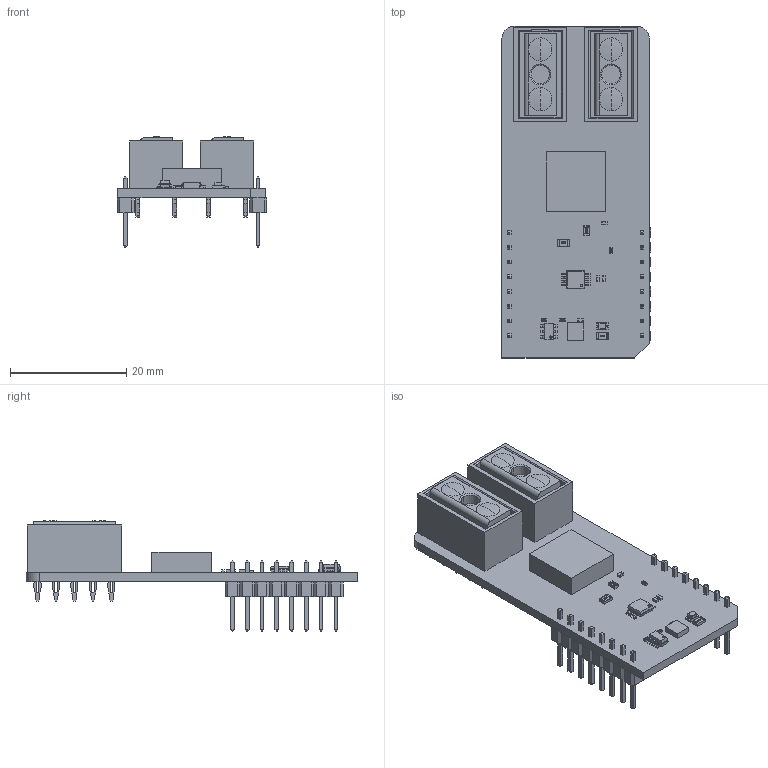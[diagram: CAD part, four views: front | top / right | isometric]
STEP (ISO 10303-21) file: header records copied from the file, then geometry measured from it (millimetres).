
FILE_DESCRIPTION(('Open CASCADE Model'),'2;1');
FILE_NAME('Open CASCADE Shape Model','2026-01-22T15:30:28',('Author'),( 'Open CASCADE'),'Open CASCADE STEP processor 6.8','Open CASCADE 6.8' ,'Unknown');
FILE_SCHEMA(('AUTOMOTIVE_DESIGN { 1 0 10303 214 1 1 1 1 }'));
Length unit declared in the file: millimetre
Products named in the file (42): PCB; Board; C4; User_Library-SMD_CAPACITOR0402; C3; C2; U4; User_Library-TSSOP-8_3_1x3_1; User_Library-TSSOP-8_3.1x3.1_pin_TSSOP_tssop_1; User_Library-TSSOP-8_3.1x3.1_body_TSSOP_TSSOP_3.1x3.1_1; U3; 1769864192; Extruded; R5; User_Library-R_0603; R2; User_Library-R_0402; CN2; Zpower_molex_50A; Open CASCADE STEP translator 6.8 1.9.1.1; Open CASCADE STEP translator 6.8 1.9.1.2; CN1; JP1; User_Library-R_0805; MBD1; Header_1x8; Free-Models; 1240637040; User_Library-PinHeaderX5-1_PinHeaderX5_Body_1; User_Library-PinHeaderX5-1_PinHeaderX5_Pins_1; R3; R1; LD1; led_0805_green; C1; R4; U1; 803555992; U2; User_Library-SOT23-6-2
Assembly tree (57 placements, depth 7):
  PCB
    Board
    C4
      User_Library-SMD_CAPACITOR0402
    C3
      User_Library-SMD_CAPACITOR0402
    C2
      User_Library-SMD_CAPACITOR0402
    U4
      User_Library-TSSOP-8_3_1x3_1
        User_Library-TSSOP-8_3.1x3.1_pin_TSSOP_tssop_1  x8
        User_Library-TSSOP-8_3.1x3.1_body_TSSOP_TSSOP_3.1x3.1_1
    U3
      1769864192
        Extruded
    R5
      User_Library-R_0603
    R2
      User_Library-R_0402
    CN2
      Zpower_molex_50A
        Open CASCADE STEP translator 6.8 1.9.1.1
        Open CASCADE STEP translator 6.8 1.9.1.2
    CN1
      Zpower_molex_50A
        Open CASCADE STEP translator 6.8 1.9.1.1
        Open CASCADE STEP translator 6.8 1.9.1.2
    JP1
      User_Library-R_0805
    MBD1
      Header_1x8  x2
        PCB
          Free-Models
            1240637040  x2
              User_Library-PinHeaderX5-1_PinHeaderX5_Body_1
              User_Library-PinHeaderX5-1_PinHeaderX5_Pins_1
    R3
      User_Library-R_0402
    R1
      User_Library-R_0805
    LD1
      led_0805_green
    C1
      User_Library-SMD_CAPACITOR0402
    R4
      User_Library-R_0402
    U1
      803555992
        Extruded
    U2
      User_Library-SOT23-6-2
Bounding box: 25.78 x 57.15 x 19.06 mm (x, y, z)
Volume: 5441.5 mm3; surface area: 7825.8 mm2
Topology: 52 solids, 52 shells, 1961 faces, 5105 edges, 3346 vertices
Faces by surface type: plane 1523, bspline 207, cylinder 181, sphere 46, cone 4
Entity records: 37653 total; most frequent: CARTESIAN_POINT 12008, ORIENTED_EDGE 4540, DIRECTION 3945, EDGE_CURVE 2270, LINE 1863, VECTOR 1863, VERTEX_POINT 1472, AXIS2_PLACEMENT_3D 1041
